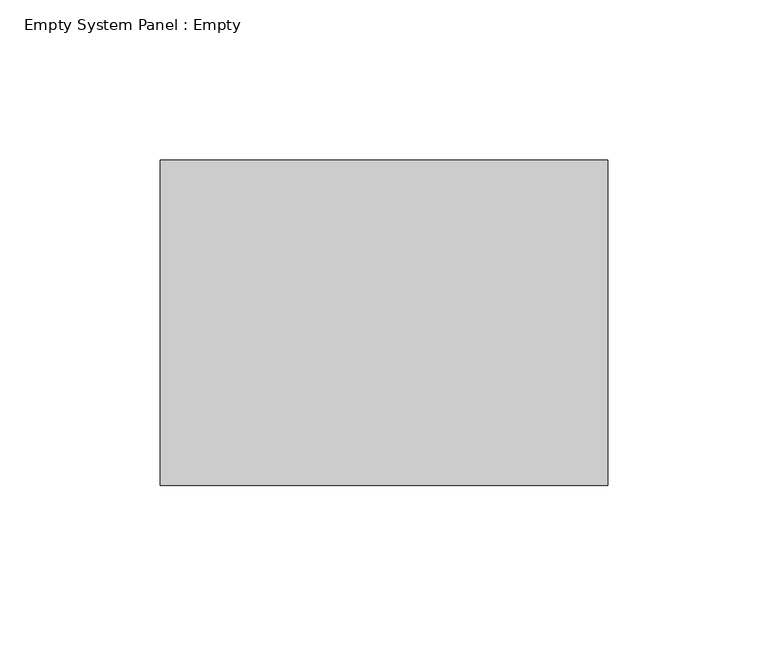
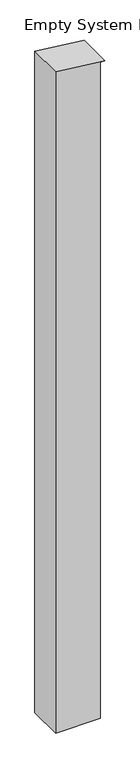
"""IFC4 building model written with IfcOpenShell, lengths in millimetres: plate geometry, Empty System Panel : Empty."""

from ifc_helpers import new_model, si_unit, frame, origin, place, context, project, spatial, polyline, outline, extrude, source, transform, mapped, element, save


def empty_system_panel_empty_bbde9e7d(model_context):
    return source(origin(), model_context, "Body", "SweptSolid", [
        extrude(outline(polyline([(0.0, -69.85), (0.0, 57.15), (1974.3019101, 57.15), (1974.3019101, 69.85), (1989.9271001, -69.85), (0.0, -69.85)])), frame((0.0, -50.8, 0.0), z_axis=(0.0, 1.0, 0.0), x_axis=(0.0, 0.0, 1.0)), (0.0, 0.0, 1.0), 101.6),
    ])


if __name__ == "__main__":
    model = new_model("IFC4")
    model_context = context("Model", 3, world=origin())
    ifc_project = project(units=[si_unit("LENGTHUNIT", "METRE", prefix="MILLI")], contexts=[model_context])
    site = spatial("IfcSite", under=ifc_project)
    building = spatial("IfcBuilding", under=site)
    placement = place(None, origin())
    empty_system_panel_empty_shape = empty_system_panel_empty_bbde9e7d(model_context)
    element("IfcPlate", 1, ObjectType="Empty System Panel : Empty", at=placement, inside=building, context=model_context, shape_type="MappedRepresentation", body=[
        mapped(empty_system_panel_empty_shape, transform((0.0, 0.0, 0.0), x_axis=(1.0, 0.0, 0.0), y_axis=(0.0, 1.0, 0.0), z_axis=(0.0, 0.0, 1.0))),
    ])
    save(model, "model.ifc")
